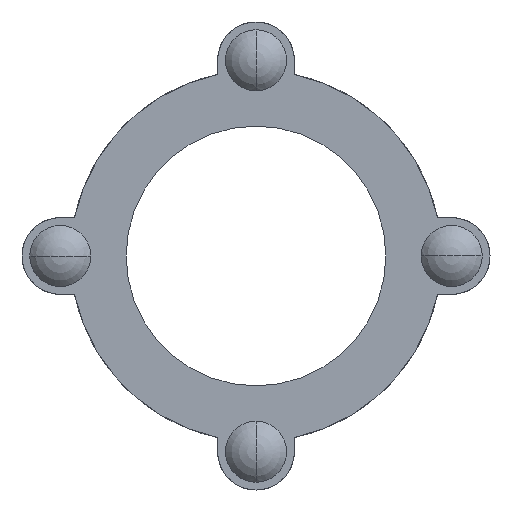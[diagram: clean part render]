
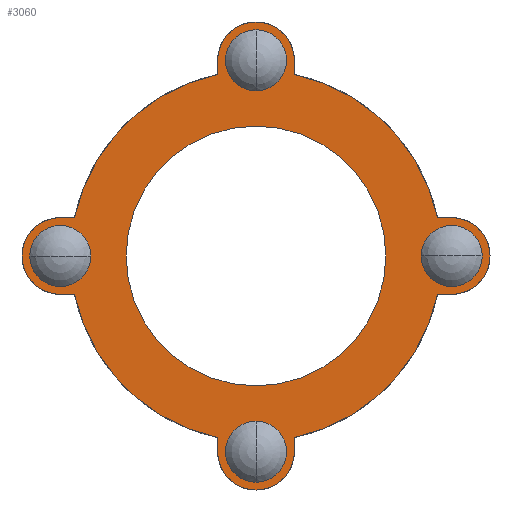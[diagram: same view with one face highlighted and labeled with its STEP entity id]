
A CAD part, left-side view. The second image highlights one B-rep face of the part: STEP entity #3060.
In plain terms, the highlighted planar face has unit normal (-1, 0, 0).
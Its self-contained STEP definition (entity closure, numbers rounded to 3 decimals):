
#2=CARTESIAN_POINT('',(-76.5,0.,-81.75));
#3=DIRECTION('',(1.,0.,0.));
#4=DIRECTION('',(0.,0.,-1.));
#5=AXIS2_PLACEMENT_3D('',#2,#3,#4);
#7=CARTESIAN_POINT('',(-76.5,0.,-81.75));
#8=DIRECTION('',(1.,0.,0.));
#9=DIRECTION('',(0.,0.,1.));
#10=AXIS2_PLACEMENT_3D('',#7,#8,#9);
#12=CARTESIAN_POINT('',(-76.5,0.,81.75));
#13=DIRECTION('',(1.,0.,0.));
#14=DIRECTION('',(0.,0.,1.));
#15=AXIS2_PLACEMENT_3D('',#12,#13,#14);
#17=CARTESIAN_POINT('',(-76.5,0.,81.75));
#18=DIRECTION('',(1.,0.,0.));
#19=DIRECTION('',(0.,0.,-1.));
#20=AXIS2_PLACEMENT_3D('',#17,#18,#19);
#22=CARTESIAN_POINT('',(-76.5,81.75,0.));
#23=DIRECTION('',(1.,0.,0.));
#24=DIRECTION('',(0.,1.,0.));
#25=AXIS2_PLACEMENT_3D('',#22,#23,#24);
#27=CARTESIAN_POINT('',(-76.5,81.75,0.));
#28=DIRECTION('',(1.,0.,0.));
#29=DIRECTION('',(0.,-1.,0.));
#30=AXIS2_PLACEMENT_3D('',#27,#28,#29);
#32=DIRECTION('',(0.,-1.,0.));
#33=VECTOR('',#32,5.92);
#34=CARTESIAN_POINT('',(-76.5,81.75,-16.));
#35=LINE('',#34,#33);
#36=CARTESIAN_POINT('',(-76.5,81.75,0.));
#37=DIRECTION('',(-1.,0.,0.));
#38=DIRECTION('',(0.,0.,1.));
#39=AXIS2_PLACEMENT_3D('',#36,#37,#38);
#41=DIRECTION('',(0.,1.,0.));
#42=VECTOR('',#41,5.92);
#43=CARTESIAN_POINT('',(-76.5,75.83,16.));
#44=LINE('',#43,#42);
#45=CARTESIAN_POINT('',(-76.5,-81.75,0.));
#46=DIRECTION('',(1.,0.,0.));
#47=DIRECTION('',(0.,-1.,0.));
#48=AXIS2_PLACEMENT_3D('',#45,#46,#47);
#50=CARTESIAN_POINT('',(-76.5,-81.75,0.));
#51=DIRECTION('',(1.,0.,0.));
#52=DIRECTION('',(0.,1.,0.));
#53=AXIS2_PLACEMENT_3D('',#50,#51,#52);
#139=CARTESIAN_POINT('',(-76.5,0.,0.));
#140=DIRECTION('',(1.,0.,0.));
#141=DIRECTION('',(0.,1.,0.));
#142=AXIS2_PLACEMENT_3D('',#139,#140,#141);
#152=CARTESIAN_POINT('',(-76.5,0.,0.));
#153=DIRECTION('',(-1.,0.,0.));
#154=DIRECTION('',(0.,1.,0.));
#155=AXIS2_PLACEMENT_3D('',#152,#153,#154);
#957=CARTESIAN_POINT('',(-76.5,0.,0.));
#958=DIRECTION('',(-1.,0.,0.));
#959=DIRECTION('',(0.,-0.978,0.206));
#960=AXIS2_PLACEMENT_3D('',#957,#958,#959);
#971=CARTESIAN_POINT('',(-76.5,0.,0.));
#972=DIRECTION('',(-1.,0.,0.));
#973=DIRECTION('',(0.,0.206,0.978));
#974=AXIS2_PLACEMENT_3D('',#971,#972,#973);
#1020=CARTESIAN_POINT('',(-76.5,0.,0.));
#1021=DIRECTION('',(-1.,0.,0.));
#1022=DIRECTION('',(0.,0.978,-0.206));
#1023=AXIS2_PLACEMENT_3D('',#1020,#1021,#1022);
#1025=CARTESIAN_POINT('',(-76.5,0.,0.));
#1026=DIRECTION('',(-1.,0.,0.));
#1027=DIRECTION('',(0.,-0.206,-0.978));
#1028=AXIS2_PLACEMENT_3D('',#1025,#1026,#1027);
#1103=DIRECTION('',(0.,-1.,0.));
#1104=VECTOR('',#1103,5.92);
#1105=CARTESIAN_POINT('',(-76.5,-75.83,-16.));
#1106=LINE('',#1105,#1104);
#1115=CARTESIAN_POINT('',(-76.5,-81.75,0.));
#1116=DIRECTION('',(-1.,0.,0.));
#1117=DIRECTION('',(0.,0.,-1.));
#1118=AXIS2_PLACEMENT_3D('',#1115,#1116,#1117);
#1138=DIRECTION('',(0.,1.,0.));
#1139=VECTOR('',#1138,5.92);
#1140=CARTESIAN_POINT('',(-76.5,-81.75,16.));
#1141=LINE('',#1140,#1139);
#1154=DIRECTION('',(0.,0.,1.));
#1155=VECTOR('',#1154,5.92);
#1156=CARTESIAN_POINT('',(-76.5,-16.,75.83));
#1157=LINE('',#1156,#1155);
#1166=CARTESIAN_POINT('',(-76.5,0.,81.75));
#1167=DIRECTION('',(-1.,0.,0.));
#1168=DIRECTION('',(0.,-1.,0.));
#1169=AXIS2_PLACEMENT_3D('',#1166,#1167,#1168);
#1189=DIRECTION('',(0.,0.,-1.));
#1190=VECTOR('',#1189,5.92);
#1191=CARTESIAN_POINT('',(-76.5,16.,81.75));
#1192=LINE('',#1191,#1190);
#1521=DIRECTION('',(0.,0.,-1.));
#1522=VECTOR('',#1521,5.92);
#1523=CARTESIAN_POINT('',(-76.5,16.,-75.83));
#1524=LINE('',#1523,#1522);
#1533=CARTESIAN_POINT('',(-76.5,0.,-81.75));
#1534=DIRECTION('',(-1.,0.,0.));
#1535=DIRECTION('',(0.,1.,0.));
#1536=AXIS2_PLACEMENT_3D('',#1533,#1534,#1535);
#1556=DIRECTION('',(0.,0.,1.));
#1557=VECTOR('',#1556,5.92);
#1558=CARTESIAN_POINT('',(-76.5,-16.,-81.75));
#1559=LINE('',#1558,#1557);
#2332=CARTESIAN_POINT('',(-76.5,54.25,0.));
#2334=VERTEX_POINT('',#2332);
#2344=CARTESIAN_POINT('',(-76.5,-54.25,0.));
#2346=VERTEX_POINT('',#2344);
#2360=CARTESIAN_POINT('',(-76.5,81.75,16.));
#2361=CARTESIAN_POINT('',(-76.5,81.75,-16.));
#2362=VERTEX_POINT('',#2360);
#2363=VERTEX_POINT('',#2361);
#2365=CARTESIAN_POINT('',(-76.5,75.83,16.));
#2367=VERTEX_POINT('',#2365);
#2368=CARTESIAN_POINT('',(-76.5,75.83,-16.));
#2370=VERTEX_POINT('',#2368);
#2512=CARTESIAN_POINT('',(-76.5,16.,81.75));
#2513=VERTEX_POINT('',#2512);
#2514=CARTESIAN_POINT('',(-76.5,-16.,81.75));
#2515=VERTEX_POINT('',#2514);
#2576=CARTESIAN_POINT('',(-76.5,-81.75,16.));
#2577=VERTEX_POINT('',#2576);
#2578=CARTESIAN_POINT('',(-76.5,-81.75,-16.));
#2579=VERTEX_POINT('',#2578);
#2640=CARTESIAN_POINT('',(-76.5,-16.,-81.75));
#2641=VERTEX_POINT('',#2640);
#2642=CARTESIAN_POINT('',(-76.5,16.,-81.75));
#2643=VERTEX_POINT('',#2642);
#2664=CARTESIAN_POINT('',(-76.5,-16.,75.83));
#2665=VERTEX_POINT('',#2664);
#2666=CARTESIAN_POINT('',(-76.5,16.,75.83));
#2667=VERTEX_POINT('',#2666);
#2690=CARTESIAN_POINT('',(-76.5,-75.83,-16.));
#2691=VERTEX_POINT('',#2690);
#2692=CARTESIAN_POINT('',(-76.5,-75.83,16.));
#2693=VERTEX_POINT('',#2692);
#2718=CARTESIAN_POINT('',(-76.5,16.,-75.83));
#2719=VERTEX_POINT('',#2718);
#2720=CARTESIAN_POINT('',(-76.5,-16.,-75.83));
#2721=VERTEX_POINT('',#2720);
#2752=CARTESIAN_POINT('',(-76.5,94.5,0.));
#2753=CARTESIAN_POINT('',(-76.5,69.,0.));
#2754=VERTEX_POINT('',#2752);
#2755=VERTEX_POINT('',#2753);
#2928=CARTESIAN_POINT('',(-76.5,0.,94.5));
#2929=VERTEX_POINT('',#2928);
#2930=CARTESIAN_POINT('',(-76.5,0.,69.));
#2931=VERTEX_POINT('',#2930);
#2944=CARTESIAN_POINT('',(-76.5,-94.5,0.));
#2945=VERTEX_POINT('',#2944);
#2946=CARTESIAN_POINT('',(-76.5,-69.,0.));
#2947=VERTEX_POINT('',#2946);
#2960=CARTESIAN_POINT('',(-76.5,0.,-94.5));
#2961=VERTEX_POINT('',#2960);
#2962=CARTESIAN_POINT('',(-76.5,0.,-69.));
#2963=VERTEX_POINT('',#2962);
#2992=CARTESIAN_POINT('',(-76.5,0.,0.));
#2993=DIRECTION('',(1.,0.,0.));
#2994=DIRECTION('',(0.,-1.,0.));
#2995=AXIS2_PLACEMENT_3D('',#2992,#2993,#2994);
#2996=PLANE('',#2995);
#2998=ORIENTED_EDGE('',*,*,#2997,.F.);
#3000=ORIENTED_EDGE('',*,*,#2999,.F.);
#3002=ORIENTED_EDGE('',*,*,#3001,.F.);
#3004=ORIENTED_EDGE('',*,*,#3003,.F.);
#3006=ORIENTED_EDGE('',*,*,#3005,.F.);
#3008=ORIENTED_EDGE('',*,*,#3007,.F.);
#3010=ORIENTED_EDGE('',*,*,#3009,.F.);
#3012=ORIENTED_EDGE('',*,*,#3011,.F.);
#3014=ORIENTED_EDGE('',*,*,#3013,.F.);
#3016=ORIENTED_EDGE('',*,*,#3015,.F.);
#3018=ORIENTED_EDGE('',*,*,#3017,.F.);
#3020=ORIENTED_EDGE('',*,*,#3019,.F.);
#3022=ORIENTED_EDGE('',*,*,#3021,.F.);
#3024=ORIENTED_EDGE('',*,*,#3023,.F.);
#3026=ORIENTED_EDGE('',*,*,#3025,.F.);
#3028=ORIENTED_EDGE('',*,*,#3027,.F.);
#3029=EDGE_LOOP('',(#2998,#3000,#3002,#3004,#3006,#3008,#3010,#3012,#3014,#3016,
#3018,#3020,#3022,#3024,#3026,#3028));
#3030=FACE_OUTER_BOUND('',#3029,.F.);
#3032=ORIENTED_EDGE('',*,*,#3031,.F.);
#3034=ORIENTED_EDGE('',*,*,#3033,.F.);
#3035=EDGE_LOOP('',(#3032,#3034));
#3036=FACE_BOUND('',#3035,.F.);
#3038=ORIENTED_EDGE('',*,*,#3037,.F.);
#3040=ORIENTED_EDGE('',*,*,#3039,.F.);
#3041=EDGE_LOOP('',(#3038,#3040));
#3042=FACE_BOUND('',#3041,.F.);
#3044=ORIENTED_EDGE('',*,*,#3043,.F.);
#3046=ORIENTED_EDGE('',*,*,#3045,.T.);
#3047=EDGE_LOOP('',(#3044,#3046));
#3048=FACE_BOUND('',#3047,.F.);
#3050=ORIENTED_EDGE('',*,*,#3049,.F.);
#3052=ORIENTED_EDGE('',*,*,#3051,.F.);
#3053=EDGE_LOOP('',(#3050,#3052));
#3054=FACE_BOUND('',#3053,.F.);
#3055=ORIENTED_EDGE('',*,*,#2981,.F.);
#3057=ORIENTED_EDGE('',*,*,#3056,.F.);
#3058=EDGE_LOOP('',(#3055,#3057));
#3059=FACE_BOUND('',#3058,.F.);
#3060=ADVANCED_FACE('',(#3030,#3036,#3042,#3048,#3054,#3059),#2996,.F.);
#6=CIRCLE('',#5,12.75);
#11=CIRCLE('',#10,12.75);
#16=CIRCLE('',#15,12.75);
#21=CIRCLE('',#20,12.75);
#26=CIRCLE('',#25,12.75);
#31=CIRCLE('',#30,12.75);
#40=CIRCLE('',#39,16.);
#49=CIRCLE('',#48,12.75);
#54=CIRCLE('',#53,12.75);
#143=CIRCLE('',#142,54.25);
#156=CIRCLE('',#155,54.25);
#961=CIRCLE('',#960,77.5);
#975=CIRCLE('',#974,77.5);
#1024=CIRCLE('',#1023,77.5);
#1029=CIRCLE('',#1028,77.5);
#1119=CIRCLE('',#1118,16.);
#1170=CIRCLE('',#1169,16.);
#1537=CIRCLE('',#1536,16.);
#2981=EDGE_CURVE('',#2945,#2947,#49,.T.);
#2997=EDGE_CURVE('',#2721,#2691,#1029,.T.);
#2999=EDGE_CURVE('',#2641,#2721,#1559,.T.);
#3001=EDGE_CURVE('',#2643,#2641,#1537,.T.);
#3003=EDGE_CURVE('',#2719,#2643,#1524,.T.);
#3005=EDGE_CURVE('',#2370,#2719,#1024,.T.);
#3007=EDGE_CURVE('',#2363,#2370,#35,.T.);
#3009=EDGE_CURVE('',#2362,#2363,#40,.T.);
#3011=EDGE_CURVE('',#2367,#2362,#44,.T.);
#3013=EDGE_CURVE('',#2667,#2367,#975,.T.);
#3015=EDGE_CURVE('',#2513,#2667,#1192,.T.);
#3017=EDGE_CURVE('',#2515,#2513,#1170,.T.);
#3019=EDGE_CURVE('',#2665,#2515,#1157,.T.);
#3021=EDGE_CURVE('',#2693,#2665,#961,.T.);
#3023=EDGE_CURVE('',#2577,#2693,#1141,.T.);
#3025=EDGE_CURVE('',#2579,#2577,#1119,.T.);
#3027=EDGE_CURVE('',#2691,#2579,#1106,.T.);
#3031=EDGE_CURVE('',#2929,#2931,#16,.T.);
#3033=EDGE_CURVE('',#2931,#2929,#21,.T.);
#3037=EDGE_CURVE('',#2754,#2755,#26,.T.);
#3039=EDGE_CURVE('',#2755,#2754,#31,.T.);
#3043=EDGE_CURVE('',#2334,#2346,#143,.T.);
#3045=EDGE_CURVE('',#2334,#2346,#156,.T.);
#3049=EDGE_CURVE('',#2961,#2963,#6,.T.);
#3051=EDGE_CURVE('',#2963,#2961,#11,.T.);
#3056=EDGE_CURVE('',#2947,#2945,#54,.T.);
